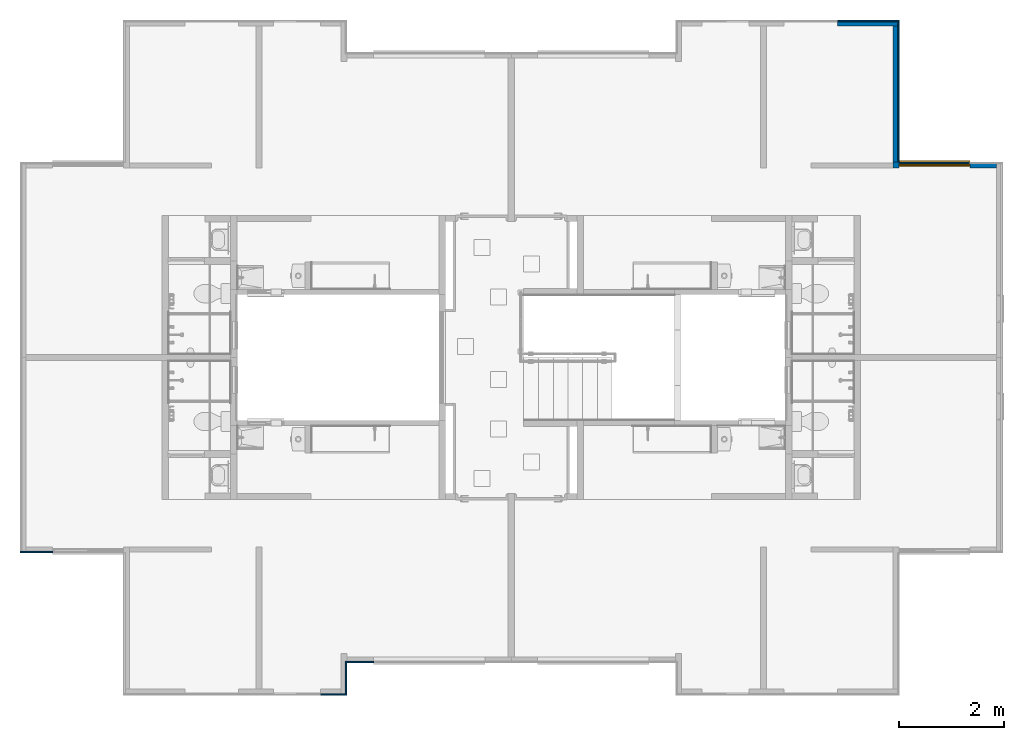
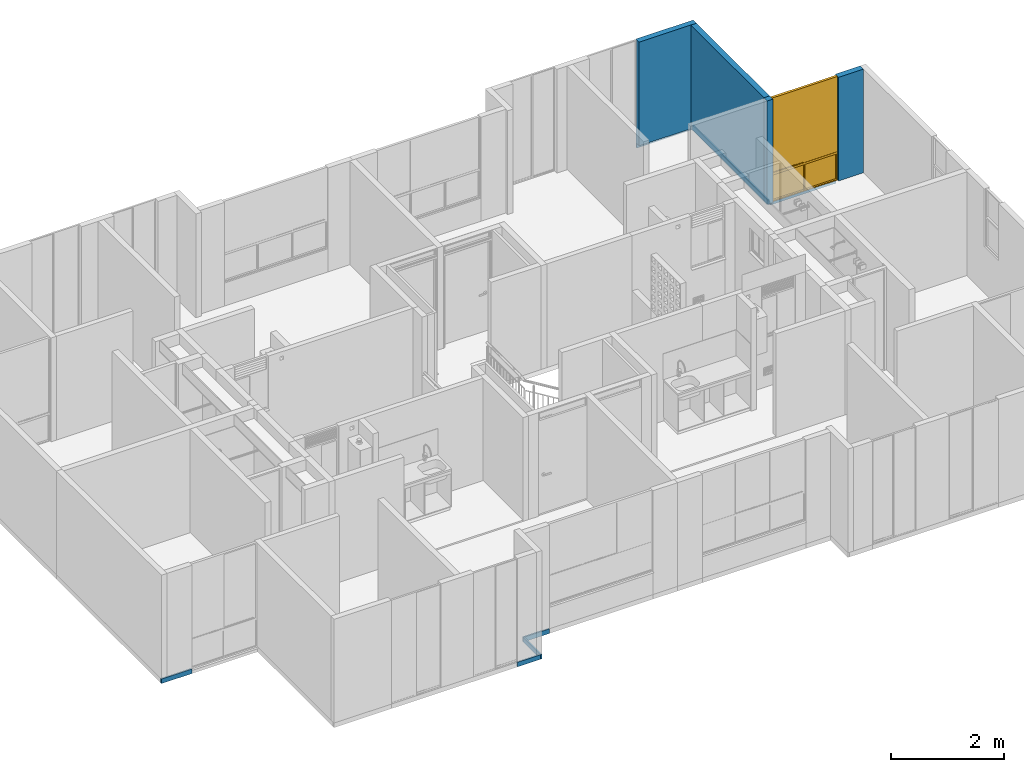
# One storey, part 27 of 47: 11 walls, 1 window, 1 opening.
"""IFC4 building model written with IfcOpenShell, lengths in metres."""

from ifc_helpers import new_model, entity, si_unit, converted_unit, derived_unit, direction, frame, origin, place, context, subcontext, project, spatial, indexed_curve, outline, extrude, polygons, source, transform, mapped, material, constituent, constituent_set, type_object, type_shapes, element, fill, save


model = new_model("IFC4")

# Units and contexts
model_context = context("Model", 3, precision=1e-05, world=origin(), true_north=direction((6.123031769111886e-17, 1.0)))
body_context = subcontext(model_context, "Body", "Model", "MODEL_VIEW")
ifc_project = project(units=[si_unit("LENGTHUNIT", "METRE"), si_unit("AREAUNIT", "SQUARE_METRE"), si_unit("VOLUMEUNIT", "CUBIC_METRE"), converted_unit("PLANEANGLEUNIT", "DEGREE", entity("IfcRatioMeasure", 0.017453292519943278), si_unit("PLANEANGLEUNIT", "RADIAN"), dimensions=[0, 0, 0, 0, 0, 0, 0]), si_unit("MASSUNIT", "GRAM", prefix="KILO"), derived_unit("MASSDENSITYUNIT", [(si_unit("MASSUNIT", "GRAM", prefix="KILO"), 1), (si_unit("LENGTHUNIT", "METRE"), -3)]), derived_unit("IONCONCENTRATIONUNIT", [(si_unit("MASSUNIT", "GRAM", prefix="KILO"), 1), (si_unit("LENGTHUNIT", "METRE"), -3)]), derived_unit("MOMENTOFINERTIAUNIT", [(si_unit("LENGTHUNIT", "METRE"), 4)]), si_unit("TIMEUNIT", "SECOND"), si_unit("FREQUENCYUNIT", "HERTZ"), si_unit("THERMODYNAMICTEMPERATUREUNIT", "DEGREE_CELSIUS"), derived_unit("THERMALTRANSMITTANCEUNIT", [(si_unit("MASSUNIT", "GRAM", prefix="KILO"), 1), (si_unit("THERMODYNAMICTEMPERATUREUNIT", "KELVIN"), -1), (si_unit("TIMEUNIT", "SECOND"), -3)]), derived_unit("THERMALCONDUCTANCEUNIT", [(si_unit("MASSUNIT", "GRAM", prefix="KILO"), 1), (si_unit("THERMODYNAMICTEMPERATUREUNIT", "KELVIN"), -1), (si_unit("TIMEUNIT", "SECOND"), -3), (si_unit("LENGTHUNIT", "METRE"), 1)]), derived_unit("VOLUMETRICFLOWRATEUNIT", [(si_unit("LENGTHUNIT", "METRE"), 3), (si_unit("TIMEUNIT", "SECOND"), -1)]), derived_unit("MASSFLOWRATEUNIT", [(si_unit("MASSUNIT", "GRAM", prefix="KILO"), 1), (si_unit("TIMEUNIT", "SECOND"), -1)]), derived_unit("ROTATIONALFREQUENCYUNIT", [(si_unit("TIMEUNIT", "SECOND"), -1)]), si_unit("ELECTRICCURRENTUNIT", "AMPERE"), si_unit("ELECTRICVOLTAGEUNIT", "VOLT"), si_unit("POWERUNIT", "WATT"), si_unit("FORCEUNIT", "NEWTON", prefix="KILO"), si_unit("ILLUMINANCEUNIT", "LUX"), si_unit("LUMINOUSFLUXUNIT", "LUMEN"), si_unit("LUMINOUSINTENSITYUNIT", "CANDELA"), derived_unit("USERDEFINED", [(si_unit("MASSUNIT", "GRAM", prefix="KILO"), -1), (si_unit("LENGTHUNIT", "METRE"), -2), (si_unit("TIMEUNIT", "SECOND"), 3), (si_unit("LUMINOUSFLUXUNIT", "LUMEN"), 1)]), derived_unit("USERDEFINED", [(si_unit("MASSUNIT", "GRAM", prefix="KILO"), 1), (si_unit("TIMEUNIT", "SECOND"), -3), (si_unit("LENGTHUNIT", "METRE"), 3), (si_unit("ELECTRICCURRENTUNIT", "AMPERE"), -2)]), derived_unit("SOUNDPOWERUNIT", [(si_unit("MASSUNIT", "GRAM", prefix="KILO"), 1), (si_unit("TIMEUNIT", "SECOND"), -3), (si_unit("LENGTHUNIT", "METRE"), 2)]), derived_unit("SOUNDPRESSUREUNIT", [(si_unit("MASSUNIT", "GRAM", prefix="KILO"), 1), (si_unit("LENGTHUNIT", "METRE"), -1), (si_unit("TIMEUNIT", "SECOND"), -2)]), derived_unit("LINEARVELOCITYUNIT", [(si_unit("LENGTHUNIT", "METRE"), 1), (si_unit("TIMEUNIT", "SECOND"), -1)]), si_unit("PRESSUREUNIT", "PASCAL"), derived_unit("USERDEFINED", [(si_unit("MASSUNIT", "GRAM", prefix="KILO"), 1), (si_unit("LENGTHUNIT", "METRE"), -2), (si_unit("TIMEUNIT", "SECOND"), -2)]), derived_unit("LINEARFORCEUNIT", [(si_unit("MASSUNIT", "GRAM", prefix="KILO"), 1), (si_unit("TIMEUNIT", "SECOND"), -2)]), derived_unit("PLANARFORCEUNIT", [(si_unit("MASSUNIT", "GRAM", prefix="KILO"), 1), (si_unit("LENGTHUNIT", "METRE"), -1), (si_unit("TIMEUNIT", "SECOND"), -2)]), derived_unit("SPECIFICHEATCAPACITYUNIT", [(si_unit("THERMODYNAMICTEMPERATUREUNIT", "KELVIN"), -1), (si_unit("LENGTHUNIT", "METRE"), 2), (si_unit("TIMEUNIT", "SECOND"), -2)]), derived_unit("HEATINGVALUEUNIT", [(si_unit("LENGTHUNIT", "METRE"), 2), (si_unit("TIMEUNIT", "SECOND"), -2)]), derived_unit("VAPORPERMEABILITYUNIT", [(si_unit("LENGTHUNIT", "METRE"), -1), (si_unit("TIMEUNIT", "SECOND"), 1)]), derived_unit("DYNAMICVISCOSITYUNIT", [(si_unit("MASSUNIT", "GRAM", prefix="KILO"), 1), (si_unit("TIMEUNIT", "SECOND"), -1), (si_unit("LENGTHUNIT", "METRE"), -1)]), derived_unit("THERMALEXPANSIONCOEFFICIENTUNIT", [(si_unit("THERMODYNAMICTEMPERATUREUNIT", "KELVIN"), -1)]), derived_unit("MODULUSOFELASTICITYUNIT", [(si_unit("MASSUNIT", "GRAM", prefix="KILO"), 1), (si_unit("LENGTHUNIT", "METRE"), -1), (si_unit("TIMEUNIT", "SECOND"), -2)]), derived_unit("ISOTHERMALMOISTURECAPACITYUNIT", [(si_unit("LENGTHUNIT", "METRE"), 3), (si_unit("MASSUNIT", "GRAM", prefix="KILO"), -1)]), derived_unit("MOISTUREDIFFUSIVITYUNIT", [(si_unit("TIMEUNIT", "SECOND"), -1), (si_unit("LENGTHUNIT", "METRE"), 2)])], contexts=[model_context])

# Site, building, storey
site_placement = place(None, origin())
site = spatial("IfcSite", under=ifc_project, at=site_placement, Name="Default", CompositionType="ELEMENT")
building_placement = place(site_placement, origin())
building = spatial("IfcBuilding", under=site, at=building_placement, CompositionType="ELEMENT")
storey_placement = place(building_placement, frame((0.0, 0.0, 11.750000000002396)))
storey = spatial("IfcBuildingStorey", under=building, at=storey_placement, Name="Nivel 6", CompositionType="ELEMENT", Elevation=11.750000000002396)

# Wall
ifc_material_1 = material(Name="Ladrillo claro (Aire)", Category="Materials")
wall_type_1 = type_object("IfcWallType", Name="Basic Wall:B2010 - 0.115m - Muro exterior en mampostería - Ladrillo", PredefinedType="STANDARD")
wall_1_placement = place(storey_placement, frame((16.670000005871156, -2.695000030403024, 0.0), z_axis=(0.0, 0.0, 1.0), x_axis=(0.0, 1.0, 0.0)))
element("IfcWall", 1, at=wall_1_placement, inside=storey, type_object=wall_type_1, material=ifc_material_1, Name="Basic Wall:B2010 - 0.115m - Muro exterior en mampostería - Ladrillo", ObjectType="Basic Wall:B2010 - 0.115m - Muro exterior en mampostería - Ladrillo", PredefinedType="NOTDEFINED", context=body_context, shape_type="SweptSolid", body=[
    extrude(outline(indexed_curve([(2.6000000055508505, 0.0575000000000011), (1.0301981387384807e-16, 0.057499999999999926), (-1.0301981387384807e-16, -0.057499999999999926), (2.6000000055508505, -0.05749999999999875), (2.6000000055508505, 0.0575000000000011)], self_intersect=False)), origin(), (0.0, 0.0, 1.0), 2.2500000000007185),
])

# Wall, opening, window
wall_2_placement = place(storey_placement, frame((16.7275000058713, -2.752500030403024, 0.0), z_axis=(0.0, 0.0, 1.0), x_axis=(-1.0, 0.0, 0.0)))
wall_2 = element("IfcWall", 2, at=wall_2_placement, inside=storey, type_object=wall_type_1, material=ifc_material_1, Name="Basic Wall:B2010 - 0.115m - Muro exterior en mampostería - Ladrillo", ObjectType="Basic Wall:B2010 - 0.115m - Muro exterior en mampostería - Ladrillo", PredefinedType="NOTDEFINED", context=body_context, shape_type="Tessellation", body=[
    polygons([(0.11500000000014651, -0.05750000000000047, -2.1657342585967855e-15), (0.11500000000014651, -0.05750000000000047, 2.2500000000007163), (-6.150492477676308e-16, -0.05750000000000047, 2.2500000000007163), (-6.150492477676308e-16, -0.05750000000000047, -2.1657342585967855e-15), (0.1150000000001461, 0.057499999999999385, 2.2500000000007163), (0.1150000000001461, 0.057499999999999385, -2.1657342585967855e-15), (1.154778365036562e-15, 0.057499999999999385, -2.1657342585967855e-15), (1.154778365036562e-15, 0.057499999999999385, 2.2500000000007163), (0.11500000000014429, -0.04250000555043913, -2.1657342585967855e-15), (0.11500000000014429, -0.04250000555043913, 2.2500000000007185)], [[[1, 2, 3, 4]], [[5, 6, 7, 8]], [[4, 3, 8, 7]], [[6, 9, 1, 4, 7]], [[2, 10, 5, 8, 3]], [[1, 9, 6, 5, 10, 2]]], closed=True),
])
opening_placement = place(wall_2_placement, frame((0.0, 0.057499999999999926, 0.0)))
opening = element("IfcOpeningElement", 3, at=opening_placement, cuts=wall_2, Name="B2020 - Ventana corrediza - Aluminio + Vidrio:B2020 - 1.35m x 2.25m - Ventana corrediza 2C - Aluminio + Vidrio:1", PredefinedType="OPENING", context=body_context, shape_type="SweptSolid", body=[
    extrude(outline(indexed_curve([(0.0, 5.414335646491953e-16), (2.2499999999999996, 5.414335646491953e-16), (2.249999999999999, 1.3500000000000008), (0.0, 1.3500000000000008), (0.0, 5.414335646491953e-16)], self_intersect=False)), frame((0.0, 0.0, 0.0), z_axis=(0.0, -1.0, 0.0), x_axis=(0.0, 0.0, 1.0)), (0.0, 0.0, 1.0), 0.115),
])
ifc_material_2 = material(Name="Vidrio", Category="Materials")
ifc_constituent_1 = constituent(ifc_material_2, Name="Vidrio", Category="Materials")
ifc_material_3 = material(Name="Aluminio", Category="Materials")
ifc_constituent_2 = constituent(ifc_material_3, Name="Aluminio", Category="Materials")
ifc_material_4 = material(Name="<Unnamed>")
ifc_constituent_3 = constituent(ifc_material_4, Name="<Unnamed>")
ifc_constituent_set_1 = constituent_set(constituents=[ifc_constituent_1, ifc_constituent_2, ifc_constituent_3])
ifc_constituent_4 = constituent(ifc_material_2, Name="Vidrio", Category="Materials")
ifc_constituent_5 = constituent(ifc_material_3, Name="Aluminio", Category="Materials")
ifc_constituent_6 = constituent(ifc_material_4, Name="<Unnamed>")
ifc_constituent_set_2 = constituent_set(constituents=[ifc_constituent_4, ifc_constituent_5, ifc_constituent_6])
window_type = type_object("IfcWindowType", Name="B2020 - Ventana corrediza - Aluminio + Vidrio:B2020 - 1.35m x 2.25m - Ventana corrediza 2C - Aluminio + Vidrio", PartitioningType="NOTDEFINED", PredefinedType="WINDOW", material=ifc_constituent_set_2)
shared_shape = source(origin(), body_context, "Body", "Tessellation", [
    polygons([(1.3299999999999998, 0.044249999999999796, 2.2300000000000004), (0.6749999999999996, 0.04424999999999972, 2.2300000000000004), (0.6749999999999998, 0.04424999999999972, 0.6174999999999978), (1.3299999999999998, 0.044249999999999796, 0.6174999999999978), (1.3299999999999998, 0.04824999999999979, 2.2300000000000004), (0.6749999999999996, 0.04824999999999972, 2.2300000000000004), (0.6749999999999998, 0.04824999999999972, 0.6174999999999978), (1.3299999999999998, 0.04824999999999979, 0.6174999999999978)], [[[1, 2, 3, 4]], [[2, 1, 5, 6]], [[3, 2, 6, 7]], [[1, 4, 8, 5]], [[5, 8, 7, 6]], [[4, 3, 7, 8]]], closed=True),
    polygons([(0.020000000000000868, 0.04424999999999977, 2.2300000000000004), (0.020000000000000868, 0.04424999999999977, 0.6174999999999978), (0.6800000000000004, 0.044249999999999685, 0.6174999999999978), (0.6800000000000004, 0.044249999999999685, 2.2300000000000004), (0.020000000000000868, 0.048249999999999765, 2.2300000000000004), (0.020000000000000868, 0.048249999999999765, 0.6174999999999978), (0.6800000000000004, 0.04824999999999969, 0.6174999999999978), (0.6800000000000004, 0.04824999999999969, 2.2300000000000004)], [[[1, 2, 3, 4]], [[2, 1, 5, 6]], [[4, 3, 7, 8]], [[1, 4, 8, 5]], [[5, 8, 7, 6]], [[3, 2, 6, 7]]], closed=True),
    polygons([(0.6800000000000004, 0.048249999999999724, 0.6174999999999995), (0.6800000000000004, 0.044249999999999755, 0.6174999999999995), (0.6800000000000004, 0.044249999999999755, 2.230000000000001), (0.6800000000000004, 0.048249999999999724, 2.230000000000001), (0.665, 0.044249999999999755, 2.2150000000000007), (0.035000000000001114, 0.04424999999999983, 2.2150000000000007), (0.035000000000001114, 0.04424999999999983, 0.6324999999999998), (0.665, 0.044249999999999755, 0.6324999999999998), (0.020000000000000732, 0.04424999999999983, 0.6174999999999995), (0.020000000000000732, 0.04424999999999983, 2.230000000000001), (0.020000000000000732, 0.0482499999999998, 2.230000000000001), (0.020000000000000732, 0.0482499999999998, 0.6174999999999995), (0.665, 0.048249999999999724, 0.6324999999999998), (0.035000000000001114, 0.04824999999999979, 0.6324999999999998), (0.035000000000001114, 0.04824999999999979, 2.2150000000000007), (0.665, 0.048249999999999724, 2.2150000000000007), (0.665, 0.05299999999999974, 0.6324999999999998), (0.665, 0.05299999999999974, 2.2150000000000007), (0.035000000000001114, 0.05299999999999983, 2.2150000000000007), (0.035000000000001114, 0.05299999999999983, 0.6324999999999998), (0.6850000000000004, 0.05299999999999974, 0.6124999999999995), (0.015000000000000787, 0.05299999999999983, 0.6124999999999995), (0.015000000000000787, 0.05299999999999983, 2.2350000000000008), (0.6850000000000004, 0.05299999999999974, 2.2350000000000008), (0.6850000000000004, 0.03949999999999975, 0.6124999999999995), (0.6850000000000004, 0.03949999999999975, 2.2350000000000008), (0.015000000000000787, 0.03949999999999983, 2.2350000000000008), (0.015000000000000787, 0.03949999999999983, 0.6124999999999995), (0.665, 0.03949999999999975, 0.6324999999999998), (0.035000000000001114, 0.03949999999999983, 0.6324999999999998), (0.035000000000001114, 0.03949999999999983, 2.2150000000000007), (0.665, 0.03949999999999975, 2.2150000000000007)], [[[1, 2, 3, 4]], [[2, 9, 10, 3], [5, 6, 7, 8]], [[4, 3, 10, 11]], [[4, 11, 12, 1], [13, 14, 15, 16]], [[17, 13, 16, 18]], [[18, 16, 15, 19]], [[21, 22, 23, 24], [18, 19, 20, 17]], [[25, 21, 24, 26]], [[26, 24, 23, 27]], [[26, 27, 28, 25], [29, 30, 31, 32]], [[8, 29, 32, 5]], [[5, 32, 31, 6]], [[11, 10, 9, 12]], [[19, 15, 14, 20]], [[27, 23, 22, 28]], [[6, 31, 30, 7]], [[12, 9, 2, 1]], [[20, 14, 13, 17]], [[28, 22, 21, 25]], [[7, 30, 29, 8]]], closed=True),
    polygons([(0.6699999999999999, 0.06674999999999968, 2.229999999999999), (0.6699999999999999, 0.06674999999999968, 0.6174999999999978), (1.3299999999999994, 0.06674999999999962, 0.6174999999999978), (1.3299999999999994, 0.06674999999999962, 2.229999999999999), (0.6699999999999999, 0.07074999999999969, 2.229999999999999), (0.6699999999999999, 0.07074999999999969, 0.6174999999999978), (1.3299999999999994, 0.0707499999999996, 0.6174999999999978), (1.3299999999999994, 0.0707499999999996, 2.229999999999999)], [[[1, 2, 3, 4]], [[2, 1, 5, 6]], [[4, 3, 7, 8]], [[1, 4, 8, 5]], [[5, 8, 7, 6]], [[3, 2, 6, 7]]], closed=True),
    polygons([(1.3299999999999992, 0.07074999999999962, 0.6175), (1.3299999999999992, 0.06674999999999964, 0.6175), (1.3299999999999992, 0.06674999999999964, 2.2299999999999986), (1.3299999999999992, 0.07074999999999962, 2.2299999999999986), (1.3149999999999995, 0.06674999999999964, 2.214999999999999), (0.6850000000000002, 0.06674999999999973, 2.214999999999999), (0.6850000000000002, 0.06674999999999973, 0.6324999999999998), (1.3149999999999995, 0.06674999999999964, 0.6324999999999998), (0.6700000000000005, 0.06674999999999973, 0.6175), (0.6700000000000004, 0.06674999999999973, 2.2299999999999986), (0.6700000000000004, 0.0707499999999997, 2.2299999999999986), (0.6700000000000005, 0.0707499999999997, 0.6175), (1.3149999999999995, 0.07074999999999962, 0.6324999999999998), (0.6850000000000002, 0.0707499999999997, 0.6324999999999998), (0.6850000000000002, 0.0707499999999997, 2.214999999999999), (1.3149999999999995, 0.07074999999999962, 2.214999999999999), (1.3149999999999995, 0.07549999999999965, 0.6324999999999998), (1.3149999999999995, 0.07549999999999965, 2.214999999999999), (0.6850000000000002, 0.07549999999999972, 2.214999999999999), (0.6850000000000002, 0.07549999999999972, 0.6324999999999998), (1.3349999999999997, 0.07549999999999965, 0.6124999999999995), (0.665, 0.07549999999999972, 0.6124999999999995), (0.6649999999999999, 0.07549999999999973, 2.2349999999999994), (1.3349999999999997, 0.07549999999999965, 2.2349999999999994), (1.3349999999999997, 0.06199999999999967, 0.6124999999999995), (1.3349999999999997, 0.06199999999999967, 2.2349999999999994), (0.6649999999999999, 0.06199999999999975, 2.2349999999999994), (0.665, 0.06199999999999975, 0.6124999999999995), (1.3149999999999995, 0.06199999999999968, 0.6324999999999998), (0.6850000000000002, 0.06199999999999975, 0.6324999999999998), (0.6850000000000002, 0.06199999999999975, 2.214999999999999), (1.3149999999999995, 0.06199999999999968, 2.214999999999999)], [[[1, 2, 3, 4]], [[2, 9, 10, 3], [5, 6, 7, 8]], [[4, 3, 10, 11]], [[4, 11, 12, 1], [13, 14, 15, 16]], [[17, 13, 16, 18]], [[18, 16, 15, 19]], [[21, 22, 23, 24], [18, 19, 20, 17]], [[25, 21, 24, 26]], [[26, 24, 23, 27]], [[26, 27, 28, 25], [29, 30, 31, 32]], [[8, 29, 32, 5]], [[5, 32, 31, 6]], [[11, 10, 9, 12]], [[19, 15, 14, 20]], [[27, 23, 22, 28]], [[6, 31, 30, 7]], [[12, 9, 2, 1]], [[20, 14, 13, 17]], [[28, 22, 21, 25]], [[7, 30, 29, 8]]], closed=True),
    polygons([(1.3249999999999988, 0.037499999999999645, 2.224999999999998), (1.3249999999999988, 0.03249999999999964, 2.2249999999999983), (0.025000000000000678, 0.03249999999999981, 2.2249999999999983), (0.025000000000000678, 0.037499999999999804, 2.2249999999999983), (0.025000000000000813, 0.03249999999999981, 0.6200000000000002), (0.02500000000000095, 0.037499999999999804, 0.6200000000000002), (1.3249999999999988, 0.03249999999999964, 0.6200000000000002), (6.767919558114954e-16, 0.03249999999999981, 0.595), (1.349999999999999, 0.03249999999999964, 0.595), (1.349999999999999, 0.03249999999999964, 2.2499999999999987), (4.060751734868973e-16, 0.03249999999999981, 2.2499999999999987), (0.005000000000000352, 0.037499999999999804, 2.2449999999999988), (1.344999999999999, 0.037499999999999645, 2.2449999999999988), (1.344999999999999, 0.037499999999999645, 0.5999999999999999), (0.0050000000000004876, 0.037499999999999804, 0.5999999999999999), (1.3249999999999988, 0.037499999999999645, 0.6200000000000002), (1.344999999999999, 0.054999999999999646, 2.2449999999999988), (0.005000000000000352, 0.05499999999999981, 2.2449999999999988), (0.005000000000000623, 0.05499999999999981, 0.5999999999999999), (0.025000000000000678, 0.054999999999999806, 2.2249999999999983), (1.3249999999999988, 0.05499999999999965, 2.224999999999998), (1.3249999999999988, 0.05499999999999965, 0.6200000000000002), (0.025000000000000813, 0.054999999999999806, 0.6200000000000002), (1.344999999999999, 0.054999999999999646, 0.5999999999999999), (1.3249999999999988, 0.05999999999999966, 2.224999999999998), (0.025000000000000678, 0.05999999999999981, 2.2249999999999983), (0.02500000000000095, 0.05999999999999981, 0.6200000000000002), (0.005000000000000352, 0.05999999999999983, 2.2449999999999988), (1.344999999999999, 0.05999999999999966, 2.2449999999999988), (1.344999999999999, 0.05999999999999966, 0.5999999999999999), (0.0050000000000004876, 0.05999999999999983, 0.5999999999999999), (1.3249999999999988, 0.05999999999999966, 0.6200000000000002), (1.344999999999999, 0.07749999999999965, 2.2449999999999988), (0.005000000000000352, 0.07749999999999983, 2.2449999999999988), (0.005000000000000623, 0.07749999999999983, 0.5999999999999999), (0.025000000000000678, 0.07749999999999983, 2.2249999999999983), (1.3249999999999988, 0.07749999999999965, 2.224999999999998), (1.3249999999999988, 0.07749999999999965, 0.6200000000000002), (0.025000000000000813, 0.07749999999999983, 0.6200000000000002), (1.344999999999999, 0.07749999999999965, 0.5999999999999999), (1.3249999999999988, 0.08249999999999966, 2.224999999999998), (0.025000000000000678, 0.08249999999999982, 2.2249999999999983), (0.02500000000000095, 0.08249999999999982, 0.6200000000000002), (4.060751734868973e-16, 0.08249999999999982, 2.2499999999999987), (1.349999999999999, 0.08249999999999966, 2.2499999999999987), (1.349999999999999, 0.08249999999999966, 0.595), (5.414335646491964e-16, 0.08249999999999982, 0.595), (1.3249999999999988, 0.08249999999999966, 0.6200000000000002)], [[[1, 2, 3, 4]], [[4, 3, 5, 6]], [[8, 9, 10, 11], [3, 2, 7, 5]], [[12, 13, 14, 15], [6, 16, 1, 4]], [[17, 13, 12, 18]], [[18, 12, 15, 19]], [[19, 24, 17, 18], [20, 21, 22, 23]], [[25, 21, 20, 26]], [[26, 20, 23, 27]], [[28, 29, 30, 31], [27, 32, 25, 26]], [[33, 29, 28, 34]], [[34, 28, 31, 35]], [[35, 40, 33, 34], [36, 37, 38, 39]], [[41, 37, 36, 42]], [[42, 36, 39, 43]], [[44, 45, 46, 47], [43, 48, 41, 42]], [[10, 45, 44, 11]], [[11, 44, 47, 8]], [[16, 7, 2, 1]], [[24, 14, 13, 17]], [[32, 22, 21, 25]], [[40, 30, 29, 33]], [[48, 38, 37, 41]], [[9, 46, 45, 10]], [[6, 5, 7, 16]], [[19, 15, 14, 24]], [[27, 23, 22, 32]], [[35, 31, 30, 40]], [[43, 39, 38, 48]], [[8, 47, 46, 9]]], closed=True),
    polygons([(0.01999999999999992, 0.08250000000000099, 0.5749999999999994), (0.020000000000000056, 0.03249999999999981, 0.5749999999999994), (0.020000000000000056, 0.0324999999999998, 0.020000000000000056), (0.01999999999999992, 0.08250000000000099, 0.020000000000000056), (0.6649999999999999, 0.03250000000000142, 0.01999999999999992), (0.6649999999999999, 0.08250000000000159, 0.019999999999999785), (2.707167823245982e-16, 0.03250000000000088, 0.5949999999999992), (2.707167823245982e-16, 0.08249999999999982, 0.5949999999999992), (2.707167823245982e-16, 0.08249999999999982, 2.707167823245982e-16), (2.707167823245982e-16, 0.03250000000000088, 2.707167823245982e-16), (1.3499999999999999, 0.08249999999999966, 2.707167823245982e-16), (1.3499999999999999, 0.03250000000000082, 2.707167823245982e-16), (1.3299999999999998, 0.08250000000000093, 0.020000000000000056), (1.33, 0.03249999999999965, 0.020000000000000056), (1.33, 0.03249999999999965, 0.5749999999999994), (1.3299999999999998, 0.08250000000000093, 0.5749999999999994), (1.3499999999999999, 0.08249999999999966, 0.5949999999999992), (1.3499999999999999, 0.03250000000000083, 0.5949999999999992), (0.6849999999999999, 0.03250000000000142, 0.5749999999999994), (0.6849999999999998, 0.08250000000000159, 0.5749999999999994), (0.6849999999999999, 0.08250000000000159, 0.019999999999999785), (0.6849999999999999, 0.03250000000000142, 0.01999999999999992), (0.6649999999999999, 0.03250000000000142, 0.5749999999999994), (0.6649999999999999, 0.08250000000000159, 0.5749999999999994)], [[[1, 2, 3, 4]], [[4, 3, 5, 6]], [[7, 8, 9, 10]], [[10, 9, 11, 12]], [[13, 14, 15, 16]], [[12, 11, 17, 18]], [[16, 15, 19, 20]], [[8, 7, 18, 17]], [[21, 20, 19, 22]], [[7, 10, 12, 18], [22, 19, 15, 14], [23, 5, 3, 2]], [[24, 6, 5, 23]], [[9, 8, 17, 11], [6, 24, 1, 4], [20, 21, 13, 16]], [[2, 1, 24, 23]], [[14, 13, 21, 22]]], closed=True),
    polygons([(0.6850000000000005, 0.07213901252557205, 0.019999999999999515), (1.3300000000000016, 0.07213901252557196, 0.019999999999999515), (1.3300000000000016, 0.06813901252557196, 0.019999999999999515), (0.6850000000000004, 0.06813901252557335, 0.019999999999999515), (0.6850000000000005, 0.07213901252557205, 0.5849999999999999), (1.3300000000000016, 0.07213901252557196, 0.5849999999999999), (1.3300000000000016, 0.06813901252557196, 0.5849999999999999), (0.6850000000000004, 0.06813901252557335, 0.5849999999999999)], [[[1, 2, 3, 4]], [[5, 6, 2, 1]], [[6, 7, 3, 2]], [[7, 8, 4, 3]], [[8, 5, 1, 4]], [[5, 8, 7, 6]]], closed=True),
    polygons([(0.6649999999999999, 0.07213901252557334, 0.019999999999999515), (0.6649999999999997, 0.06813901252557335, 0.019999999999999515), (0.01999999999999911, 0.06813901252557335, 0.019999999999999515), (0.019999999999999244, 0.07213901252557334, 0.019999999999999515), (0.6649999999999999, 0.07213901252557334, 0.5849999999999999), (0.6649999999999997, 0.06813901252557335, 0.5849999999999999), (0.01999999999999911, 0.06813901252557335, 0.5849999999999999), (0.019999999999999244, 0.07213901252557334, 0.5849999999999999)], [[[1, 2, 3, 4]], [[5, 6, 2, 1]], [[6, 7, 3, 2]], [[7, 8, 4, 3]], [[8, 5, 1, 4]], [[5, 8, 7, 6]]], closed=True),
    polygons([(-9.475087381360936e-16, 0.11499999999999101, -4.060751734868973e-16), (-9.475087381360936e-16, 0.08249999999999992, -4.060751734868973e-16), (-9.475087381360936e-16, 0.08249999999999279, 0.0049999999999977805), (-9.475087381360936e-16, 0.11633974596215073, 0.0049999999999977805), (-8.121503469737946e-16, 0.14348076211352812, -0.010669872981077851), (-8.121503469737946e-16, 0.14098076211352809, -0.015000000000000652), (1.3499999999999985, 0.11499999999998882, -4.060751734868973e-16), (1.3499999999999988, 0.1409807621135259, -0.015000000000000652), (1.3499999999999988, 0.14348076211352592, -0.010669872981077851), (1.3499999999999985, 0.11633974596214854, 0.0049999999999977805), (1.3499999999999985, 0.08249999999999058, 0.0049999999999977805), (1.3499999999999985, 0.08249999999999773, -4.060751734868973e-16)], [[[1, 2, 3, 4, 5, 6]], [[7, 8, 9, 10, 11, 12]], [[2, 1, 7, 12]], [[3, 2, 12, 11]], [[4, 3, 11, 10]], [[5, 4, 10, 9]], [[6, 5, 9, 8]], [[1, 6, 8, 7]]], closed=True),
])
type_shapes(window_type, [shared_shape])
window_placement = place(opening_placement, frame((0.0, 0.0, 0.0), z_axis=(0.0, 0.0, 1.0), x_axis=(-1.0, 0.0, 0.0)))
window = element("IfcWindow", 4, at=window_placement, inside=storey, type_object=window_type, material=ifc_constituent_set_1, Name="B2020 - Ventana corrediza - Aluminio + Vidrio:B2020 - 1.35m x 2.25m - Ventana corrediza 2C - Aluminio + Vidrio", ObjectType="B2020 - Ventana corrediza - Aluminio + Vidrio:B2020 - 1.35m x 2.25m - Ventana corrediza 2C - Aluminio + Vidrio", OverallHeight=2.2499999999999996, OverallWidth=1.3500000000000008, PartitioningType="NOTDEFINED", PredefinedType="WINDOW", context=body_context, shape_type="MappedRepresentation", body=[
    mapped(shared_shape, transform((0.0, 0.0, 0.0), scale=1.0)),
])
fill(opening, window)

# Walls
ifc_material_5 = material(Name="LADRILLO CLARO", Category="Materials")
wall_type_2 = type_object("IfcWallType", Name="Basic Wall:B2010 - 0.115m - ME mampostería no estructural - Ladrillo", PredefinedType="STANDARD")
wall_3_placement = place(storey_placement, frame((18.58750000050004, -2.7525000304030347, 0.0), z_axis=(0.0, 0.0, 1.0), x_axis=(-1.0, 0.0, 0.0)))
element("IfcWall", 5, at=wall_3_placement, inside=storey, type_object=wall_type_2, material=ifc_material_5, Name="Basic Wall:B2010 - 0.115m - ME mampostería no estructural - Ladrillo", ObjectType="Basic Wall:B2010 - 0.115m - ME mampostería no estructural - Ladrillo", PredefinedType="NOTDEFINED", context=body_context, shape_type="SweptSolid", body=[
    extrude(outline(indexed_curve([(0.5099999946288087, 0.05749999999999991), (-1.8225877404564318e-16, 0.057499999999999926), (1.8225877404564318e-16, -0.057499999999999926), (0.5099999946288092, -0.05749999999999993), (0.5099999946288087, 0.05749999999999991)], self_intersect=False)), origin(), (0.0, 0.0, 1.0), 2.250000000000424),
])
wall_4_placement = place(storey_placement, frame((15.553300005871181, -0.037500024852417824, 0.0)))
element("IfcWall", 6, at=wall_4_placement, inside=storey, type_object=wall_type_2, material=ifc_material_5, Name="Basic Wall:B2010 - 0.115m - ME mampostería no estructural - Ladrillo", ObjectType="Basic Wall:B2010 - 0.115m - ME mampostería no estructural - Ladrillo", PredefinedType="NOTDEFINED", context=body_context, shape_type="SweptSolid", body=[
    extrude(outline(indexed_curve([(1.174199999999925, 0.05749999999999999), (-6.892764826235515e-16, 0.0575), (6.892764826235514e-16, -0.05749999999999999), (1.1741999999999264, -0.05749999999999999), (1.174199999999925, 0.05749999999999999)], self_intersect=False)), origin(), (0.0, 0.0, 1.0), 2.2500000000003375),
])
wall_type_3 = type_object("IfcWallType", Name="Basic Wall:B2010 - 0.03m - ME enchape  no estructural - Ladrillo", PredefinedType="STANDARD")
wall_5_placement = place(storey_placement, frame((6.167499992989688, -12.255000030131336, -0.10000000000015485), z_axis=(0.0, 0.0, 1.0), x_axis=(0.0, -1.0, 0.0)))
element("IfcWall", 7, at=wall_5_placement, inside=storey, type_object=wall_type_3, material=ifc_material_5, Name="Basic Wall:B2010 - 0.03m - ME enchape  no estructural - Ladrillo", ObjectType="Basic Wall:B2010 - 0.03m - ME enchape  no estructural - Ladrillo", PredefinedType="NOTDEFINED", context=body_context, shape_type="SweptSolid", body=[
    extrude(outline(indexed_curve([(0.6150000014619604, 0.014999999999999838), (0.0, 0.014999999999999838), (0.0, -0.014999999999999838), (0.6150000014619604, -0.014999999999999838), (0.6150000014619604, 0.014999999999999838)], self_intersect=False)), origin(), (0.0, 0.0, 1.0), 0.09999999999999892),
])
wall_6_placement = place(storey_placement, frame((6.152499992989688, -12.855000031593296, -0.10000000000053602), z_axis=(0.0, 0.0, 1.0), x_axis=(-1.0, 0.0, 0.0)))
element("IfcWall", 8, at=wall_6_placement, inside=storey, type_object=wall_type_3, material=ifc_material_5, Name="Basic Wall:B2010 - 0.03m - ME enchape  no estructural - Ladrillo", ObjectType="Basic Wall:B2010 - 0.03m - ME enchape  no estructural - Ladrillo", PredefinedType="NOTDEFINED", context=body_context, shape_type="SweptSolid", body=[
    extrude(outline(indexed_curve([(0.4700000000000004, 0.015000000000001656), (4.570130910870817e-17, 0.015000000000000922), (-4.570130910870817e-17, -0.015000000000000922), (0.4700000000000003, -0.015000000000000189), (0.4700000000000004, 0.015000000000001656)], self_intersect=False)), origin(), (0.0, 0.0, 1.0), 0.09999999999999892),
])
wall_7_placement = place(storey_placement, frame((-0.057499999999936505, -10.140000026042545, -0.10000000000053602)))
element("IfcWall", 9, at=wall_7_placement, inside=storey, type_object=wall_type_3, material=ifc_material_5, Name="Basic Wall:B2010 - 0.03m - ME enchape  no estructural - Ladrillo", ObjectType="Basic Wall:B2010 - 0.03m - ME enchape  no estructural - Ladrillo", PredefinedType="NOTDEFINED", context=body_context, shape_type="SweptSolid", body=[
    extrude(outline(indexed_curve([(0.6249999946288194, 0.015000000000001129), (2.3382102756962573e-18, 0.015000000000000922), (-2.3382102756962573e-18, -0.015000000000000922), (0.6249999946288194, -0.015000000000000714), (0.6249999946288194, 0.015000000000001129)], self_intersect=False)), origin(), (0.0, 0.0, 1.0), 0.09999999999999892),
])
wall_8_placement = place(storey_placement, frame((16.71250000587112, -0.010000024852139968, -0.10000000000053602), z_axis=(0.0, 0.0, 1.0), x_axis=(0.0, -1.0, 0.0)))
element("IfcWall", 10, at=wall_8_placement, inside=storey, type_object=wall_type_3, material=ifc_material_5, Name="Basic Wall:B2010 - 0.03m - ME enchape  no estructural - Ladrillo", ObjectType="Basic Wall:B2010 - 0.03m - ME enchape  no estructural - Ladrillo", PredefinedType="NOTDEFINED", context=body_context, shape_type="SweptSolid", body=[
    extrude(outline(indexed_curve([(2.683660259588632, 0.015000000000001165), (1.7027254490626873e-18, 0.015000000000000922), (-1.7027254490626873e-18, -0.015000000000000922), (2.683660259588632, -0.015000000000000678), (2.683660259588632, 0.015000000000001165)], self_intersect=False)), origin(), (0.0, 0.0, 1.0), 0.09999999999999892),
])
wall_9_placement = place(storey_placement, frame((15.552500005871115, 0.004999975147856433, -0.10000000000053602)))
element("IfcWall", 11, at=wall_9_placement, inside=storey, type_object=wall_type_3, material=ifc_material_5, Name="Basic Wall:B2010 - 0.03m - ME enchape  no estructural - Ladrillo", ObjectType="Basic Wall:B2010 - 0.03m - ME enchape  no estructural - Ladrillo", PredefinedType="NOTDEFINED", context=body_context, shape_type="SweptSolid", body=[
    extrude(outline(indexed_curve([(1.1750000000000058, 0.014999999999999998), (4.3864338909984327e-17, 0.015), (-4.3864338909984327e-17, -0.015), (1.1750000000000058, -0.015000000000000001), (1.1750000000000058, 0.014999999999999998)], self_intersect=False)), origin(), (0.0, 0.0, 1.0), 0.09999999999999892),
])
wall_10_placement = place(storey_placement, frame((18.077500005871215, -2.7100000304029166, -0.10000000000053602), z_axis=(0.0, 0.0, 1.0), x_axis=(-1.0, 0.0, 0.0)))
element("IfcWall", 12, at=wall_10_placement, inside=storey, type_object=wall_type_3, material=ifc_material_5, Name="Basic Wall:B2010 - 0.03m - ME enchape  no estructural - Ladrillo", ObjectType="Basic Wall:B2010 - 0.03m - ME enchape  no estructural - Ladrillo", PredefinedType="NOTDEFINED", context=body_context, shape_type="SweptSolid", body=[
    extrude(outline(indexed_curve([(1.3500000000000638, 0.014999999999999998), (3.050576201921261e-16, 0.014999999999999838), (-3.050576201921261e-16, -0.014999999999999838), (1.3500000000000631, -0.01499999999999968), (1.3500000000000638, 0.014999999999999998)], self_intersect=False)), origin(), (0.0, 0.0, 1.0), 0.09999999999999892),
])
wall_11_placement = place(storey_placement, frame((6.6924999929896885, -12.240000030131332, -0.10000000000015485), z_axis=(0.0, 0.0, 1.0), x_axis=(-1.0, 0.0, 0.0)))
element("IfcWall", 13, at=wall_11_placement, inside=storey, type_object=wall_type_3, material=ifc_material_5, Name="Basic Wall:B2010 - 0.03m - ME enchape  no estructural - Ladrillo", ObjectType="Basic Wall:B2010 - 0.03m - ME enchape  no estructural - Ladrillo", PredefinedType="NOTDEFINED", context=body_context, shape_type="SweptSolid", body=[
    extrude(outline(indexed_curve([(0.5399999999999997, 0.015000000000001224), (5.1729321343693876e-17, 0.015000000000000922), (-5.1729321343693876e-17, -0.015000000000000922), (0.5399999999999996, -0.015000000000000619), (0.5399999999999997, 0.015000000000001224)], self_intersect=False)), origin(), (0.0, 0.0, 1.0), 0.09999999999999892),
])

save(model, "model.ifc")
